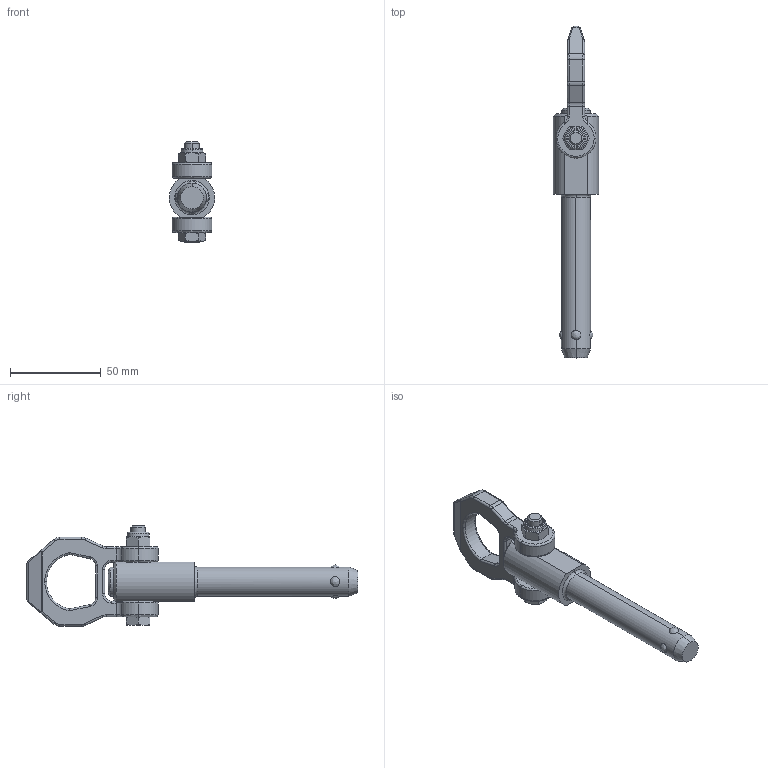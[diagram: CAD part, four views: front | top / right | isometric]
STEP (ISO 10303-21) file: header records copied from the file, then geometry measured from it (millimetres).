
FILE_DESCRIPTION (( 'STEP AP214' ), '1' );
FILE_NAME ('1130-16-75-NI.step', '2023-05-11T09:32:28', ( '' ), ( '' ), 'SwSTEP 2.0', 'SolidWorks 2022', '' );
FILE_SCHEMA (( 'AUTOMOTIVE_DESIGN' ));
Length unit declared in the file: millimetre
Products named in the file (3): Kopie von bolzen2^WB1130_NI_16-75-NI; 1130-16-75-NI; Kopie von ring2^WB1130_NI
Assembly tree (2 placements, depth 2):
  1130-16-75-NI
    Kopie von bolzen2^WB1130_NI_16-75-NI
    Kopie von ring2^WB1130_NI
Bounding box: 25 x 182.9 x 55.25 mm (x, y, z)
Volume: 59207.8 mm3; surface area: 17611 mm2
Topology: 2 solids, 2 shells, 265 faces, 646 edges, 396 vertices
Faces by surface type: plane 86, cylinder 77, bspline 54, cone 44, torus 4
Entity records: 10230 total; most frequent: CARTESIAN_POINT 4525, ORIENTED_EDGE 1292, DIRECTION 979, EDGE_CURVE 646, VERTEX_POINT 396, AXIS2_PLACEMENT_3D 377, EDGE_LOOP 282, FACE_OUTER_BOUND 265
